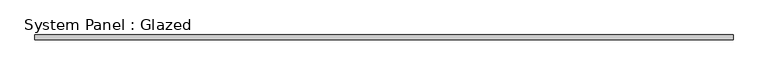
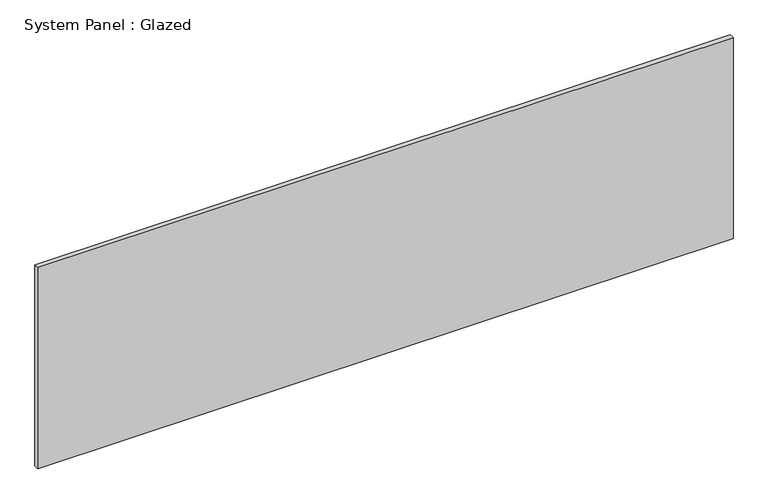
"""IFC4 building model written with IfcOpenShell, lengths in millimetres: plate geometry, System Panel : Glazed."""

from ifc_helpers import new_model, si_unit, origin, origin_with_axes, place, context, project, spatial, polyline, outline, extrude, source, transform, mapped, element, save


def system_panel_glazed_1a112643(model_context):
    return source(origin(), model_context, "Body", "SweptSolid", [
        extrude(outline(polyline([(1794.1857925, 24.5), (-1794.1857925, 24.5), (-1794.1857925, 49.5), (1794.1857925, 49.5), (1794.1857925, 24.5)])), origin_with_axes(), (0.0, 0.0, 1.0), 1098.2453384),
    ])


if __name__ == "__main__":
    model = new_model("IFC4")
    model_context = context("Model", 3, world=origin())
    ifc_project = project(units=[si_unit("LENGTHUNIT", "METRE", prefix="MILLI")], contexts=[model_context])
    site = spatial("IfcSite", under=ifc_project)
    building = spatial("IfcBuilding", under=site)
    placement = place(None, origin())
    system_panel_glazed_shape = system_panel_glazed_1a112643(model_context)
    element("IfcPlate", 1, ObjectType="System Panel : Glazed", at=placement, inside=building, context=model_context, shape_type="MappedRepresentation", body=[
        mapped(system_panel_glazed_shape, transform((0.0, 0.0, 0.0), x_axis=(1.0, 0.0, 0.0), y_axis=(0.0, 1.0, 0.0), z_axis=(0.0, 0.0, 1.0))),
    ])
    save(model, "model.ifc")
